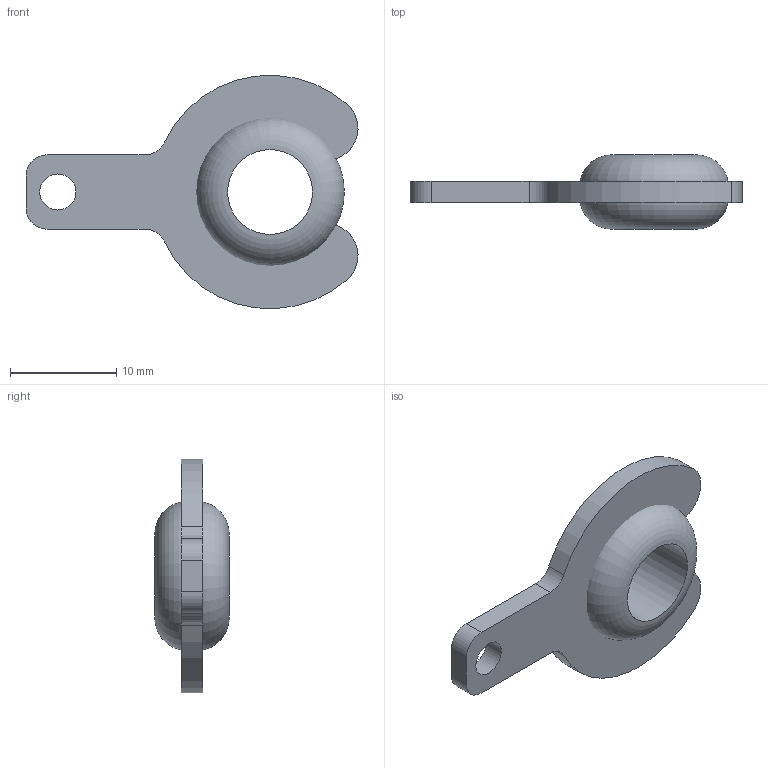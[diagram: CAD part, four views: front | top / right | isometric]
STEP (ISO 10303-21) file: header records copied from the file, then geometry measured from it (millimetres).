
FILE_DESCRIPTION (( 'STEP AP214' ), '1' );
FILE_NAME ('过线钣金+8mm双面护线圈.STEP', '2026-05-21T03:42:35', ( 'Windows User' ), ( 'P R C' ), 'SwSTEP 2.0', 'SolidWorks 2021', '' );
FILE_SCHEMA (( 'AUTOMOTIVE_DESIGN' ));
Length unit declared in the file: millimetre
Products named in the file (1): 过线钣金+8mm双面护线圈
Bounding box: 31.29 x 7 x 21.98 mm (x, y, z)
Volume: 1085.2 mm3; surface area: 1626 mm2
Topology: 2 solids, 2 shells, 21 faces, 49 edges, 32 vertices
Faces by surface type: cylinder 12, plane 7, torus 2
Full cylindrical faces by diameter (mm): 3.4 x1, 8 x1, 9 x1
Entity records: 870 total; most frequent: DIRECTION 114, CARTESIAN_POINT 98, ORIENTED_EDGE 88, AXIS2_PLACEMENT_3D 48, EDGE_CURVE 44, VERTEX_POINT 32, EDGE_LOOP 30, CIRCLE 26
